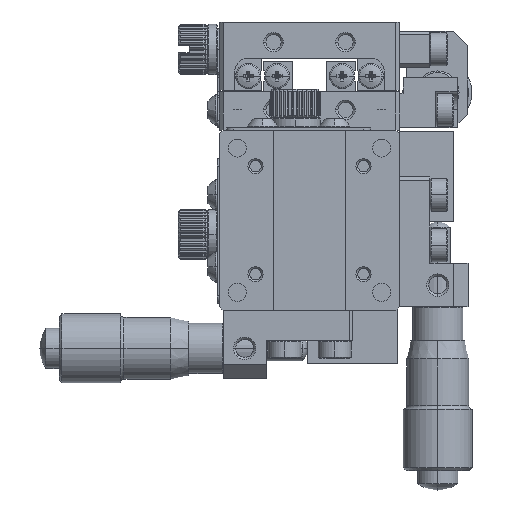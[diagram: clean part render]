
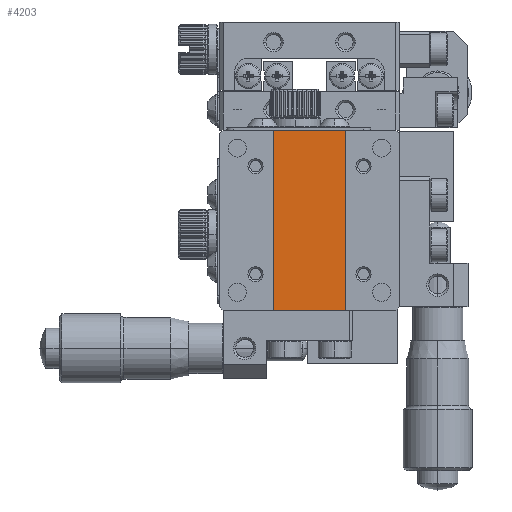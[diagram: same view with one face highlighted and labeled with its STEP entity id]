
A CAD part, front view. The second image highlights one B-rep face of the part: STEP entity #4203.
In plain terms, the highlighted planar face has unit normal (0, -1, 0).
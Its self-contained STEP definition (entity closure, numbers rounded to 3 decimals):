
#38=DIRECTION('',(-1.,0.,0.));
#39=VECTOR('',#38,10.);
#40=CARTESIAN_POINT('',(5.,0.2,-12.5));
#41=LINE('',#40,#39);
#1081=DIRECTION('',(-1.,0.,0.));
#1082=VECTOR('',#1081,10.);
#1083=CARTESIAN_POINT('',(5.,0.2,12.5));
#1084=LINE('',#1083,#1082);
#1407=DIRECTION('',(0.,0.,-1.));
#1408=VECTOR('',#1407,25.);
#1409=CARTESIAN_POINT('',(-5.,0.2,12.5));
#1410=LINE('',#1409,#1408);
#1411=DIRECTION('',(0.,0.,1.));
#1412=VECTOR('',#1411,25.);
#1413=CARTESIAN_POINT('',(5.,0.2,-12.5));
#1414=LINE('',#1413,#1412);
#1966=CARTESIAN_POINT('',(5.,0.2,-12.5));
#1967=CARTESIAN_POINT('',(-5.,0.2,-12.5));
#1968=VERTEX_POINT('',#1966);
#1969=VERTEX_POINT('',#1967);
#1974=CARTESIAN_POINT('',(5.,0.2,12.5));
#1975=CARTESIAN_POINT('',(-5.,0.2,12.5));
#1976=VERTEX_POINT('',#1974);
#1977=VERTEX_POINT('',#1975);
#4191=CARTESIAN_POINT('',(0.,0.2,-12.5));
#4192=DIRECTION('',(0.,-1.,0.));
#4193=DIRECTION('',(-1.,0.,0.));
#4194=AXIS2_PLACEMENT_3D('',#4191,#4192,#4193);
#4195=PLANE('',#4194);
#4196=ORIENTED_EDGE('',*,*,#2085,.T.);
#4198=ORIENTED_EDGE('',*,*,#4197,.F.);
#4199=ORIENTED_EDGE('',*,*,#3628,.F.);
#4200=ORIENTED_EDGE('',*,*,#4184,.F.);
#4201=EDGE_LOOP('',(#4196,#4198,#4199,#4200));
#4202=FACE_OUTER_BOUND('',#4201,.F.);
#4203=ADVANCED_FACE('',(#4202),#4195,.T.);
#2085=EDGE_CURVE('',#1968,#1969,#41,.T.);
#3628=EDGE_CURVE('',#1976,#1977,#1084,.T.);
#4184=EDGE_CURVE('',#1968,#1976,#1414,.T.);
#4197=EDGE_CURVE('',#1977,#1969,#1410,.T.);
